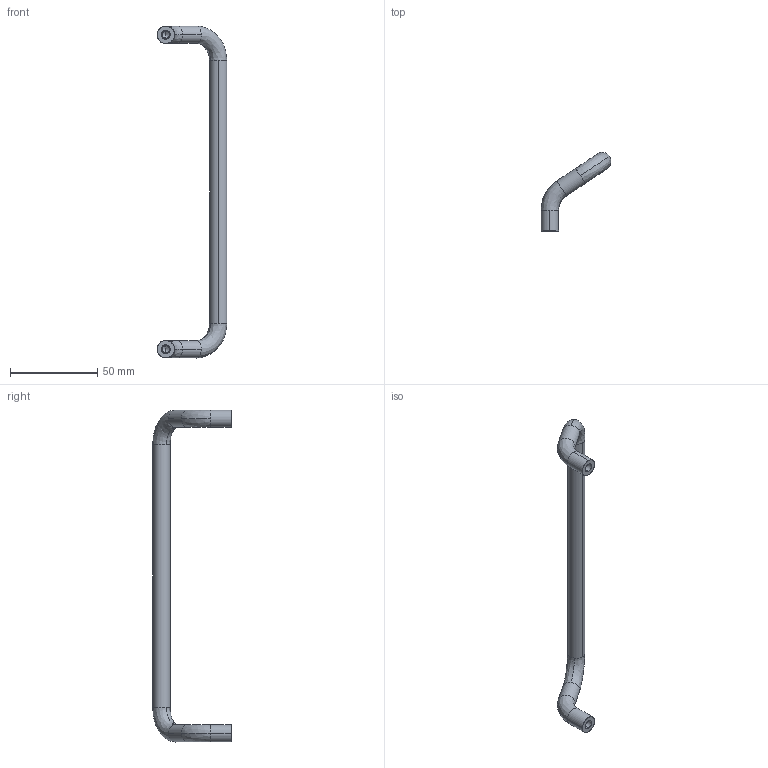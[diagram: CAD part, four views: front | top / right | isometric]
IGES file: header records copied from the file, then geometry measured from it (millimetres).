
Start section: SolidWorks IGES file using analytic representation for surfaces
Global section: file name: C:\Users\IanO\Desktop\Temp File\Process pending\79840_v2\79840_v2_20171115_IGES\79840.W0118.igs; native system: SolidWorks 2017; preprocessor: SolidWorks 2017; author: IanO; date: 171115.103812; units: millimetre
Bounding box: 39.99 x 45 x 190 mm (x, y, z)
Surface area: 9201.4 mm2 (no closed solid volume)
Topology: 0 solids, 0 shells, 34 faces, 396 edges, 392 vertices
Faces by surface type: revolution 22, bspline 12
